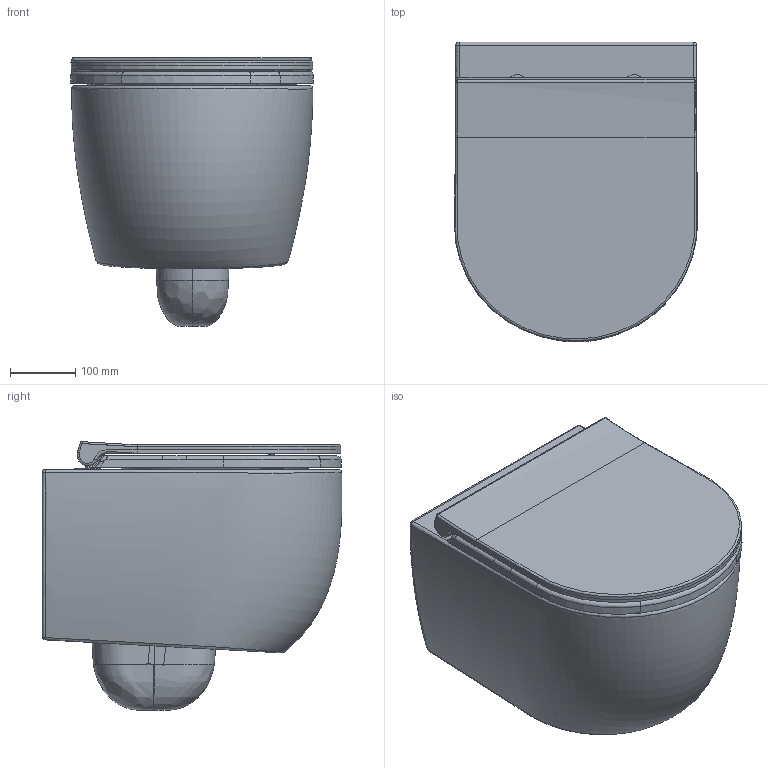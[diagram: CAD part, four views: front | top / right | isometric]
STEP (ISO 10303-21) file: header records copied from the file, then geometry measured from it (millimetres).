
FILE_DESCRIPTION(/* description */ (''),/* implementation_level */ '2;1');
FILE_NAME(/* name */ 'Vaso_sospeso_mini bull',/* time_stamp */ '2025-10-13T12:40:47+02:00',/* author */ (''),/* organization */ (''),/* preprocessor_version */ 'ST-DEVELOPER v19.2',/* originating_system */ 'Rhino 8.23',/* authorisation */ '');
FILE_SCHEMA (('CONFIG_CONTROL_DESIGN'));
Length unit declared in the file: millimetre
Products named in the file (1): Document
Bounding box: 373.75 x 460.62 x 412.88 mm (x, y, z)
Volume: 26263.4 mm3; surface area: 1502255.8 mm2
Topology: 8 solids, 16 shells, 670 faces, 1670 edges, 1000 vertices
Faces by surface type: bspline 404, cylinder 138, plane 128
Entity records: 55090 total; most frequent: CARTESIAN_POINT 43784, ORIENTED_EDGE 3014, EDGE_CURVE 1570, DIRECTION 1071, VERTEX_POINT 930, B_SPLINE_CURVE_WITH_KNOTS 710, AXIS2_PLACEMENT_3D 666, EDGE_LOOP 664
